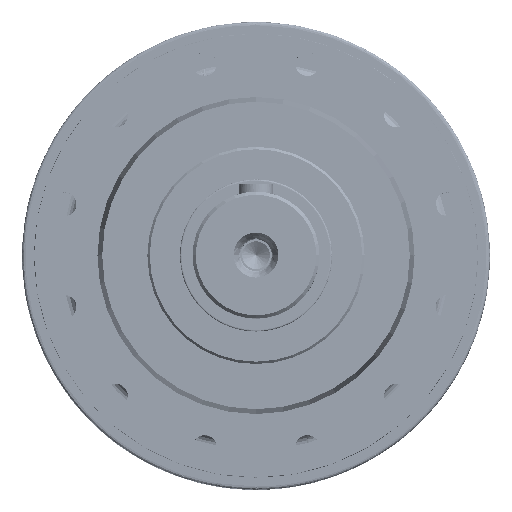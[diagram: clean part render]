
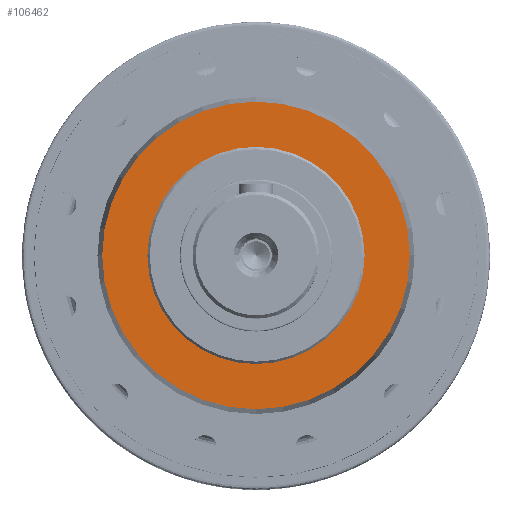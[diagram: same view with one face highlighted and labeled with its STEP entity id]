
A CAD part, top view. The second image highlights one B-rep face of the part: STEP entity #106462.
In plain terms, the highlighted planar face has unit normal (0, 0, 1).
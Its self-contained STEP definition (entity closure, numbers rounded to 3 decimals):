
#5864 = CIRCLE ( 'NONE', #146075, 97. ) ;
#5903 = CIRCLE ( 'NONE', #146158, 68.5 ) ;
#6062 = CIRCLE ( 'NONE', #146123, 68.5 ) ;
#17677 = EDGE_CURVE ( 'NONE', #106305, #106455, #5864, .T. ) ;
#17684 = EDGE_CURVE ( 'NONE', #107079, #106718, #5903, .T. ) ;
#17711 = EDGE_CURVE ( 'NONE', #106718, #107079, #6062, .T. ) ;
#18902 = EDGE_CURVE ( 'NONE', #106455, #106305, #26458, .T. ) ;
#26458 = CIRCLE ( 'NONE', #147446, 97. ) ;
#41227 = AXIS2_PLACEMENT_3D ( 'NONE', #235694, #235714, #235734 ) ;
#72767 = CARTESIAN_POINT ( 'NONE',  ( 0., 0., 147. ) ) ;
#72809 = DIRECTION ( 'NONE',  ( 0., 0., -1. ) ) ;
#72864 = DIRECTION ( 'NONE',  ( 0., 1., 0. ) ) ;
#97167 = DIRECTION ( 'NONE',  ( 0., 0., 1. ) ) ;
#97257 = CARTESIAN_POINT ( 'NONE',  ( 0., 0., 147. ) ) ;
#97282 = DIRECTION ( 'NONE',  ( -1., 0., 0. ) ) ;
#99166 = DIRECTION ( 'NONE',  ( 0., 0., -1. ) ) ;
#99197 = CARTESIAN_POINT ( 'NONE',  ( 0., 0., 147. ) ) ;
#99202 = DIRECTION ( 'NONE',  ( 0., 1., 0. ) ) ;
#99251 = CARTESIAN_POINT ( 'NONE',  ( 0., 0., 147. ) ) ;
#99254 = DIRECTION ( 'NONE',  ( 0., 0., 1. ) ) ;
#99258 = DIRECTION ( 'NONE',  ( -1., 0., 0. ) ) ;
#101124 = FACE_OUTER_BOUND ( 'NONE', #111360, .T. ) ;
#101161 = FACE_BOUND ( 'NONE', #111464, .T. ) ;
#106305 = VERTEX_POINT ( 'NONE', #235358 ) ;
#106455 = VERTEX_POINT ( 'NONE', #235732 ) ;
#106462 = ADVANCED_FACE ( 'NONE', ( #101161, #101124 ), #235683, .F. ) ;
#106718 = VERTEX_POINT ( 'NONE', #236221 ) ;
#107079 = VERTEX_POINT ( 'NONE', #207156 ) ;
#111360 = EDGE_LOOP ( 'NONE', ( #254023, #253977 ) ) ;
#111464 = EDGE_LOOP ( 'NONE', ( #253988, #253973 ) ) ;
#146075 = AXIS2_PLACEMENT_3D ( 'NONE', #99197, #99166, #99202 ) ;
#146123 = AXIS2_PLACEMENT_3D ( 'NONE', #97257, #97167, #97282 ) ;
#146158 = AXIS2_PLACEMENT_3D ( 'NONE', #99251, #99254, #99258 ) ;
#147446 = AXIS2_PLACEMENT_3D ( 'NONE', #72767, #72809, #72864 ) ;
#207156 = CARTESIAN_POINT ( 'NONE',  ( -68.5, 0., 147. ) ) ;
#235358 = CARTESIAN_POINT ( 'NONE',  ( 0., -97., 147. ) ) ;
#235683 = PLANE ( 'NONE',  #41227 ) ;
#235694 = CARTESIAN_POINT ( 'NONE',  ( 0., 97., 147. ) ) ;
#235714 = DIRECTION ( 'NONE',  ( 0., 0., -1. ) ) ;
#235732 = CARTESIAN_POINT ( 'NONE',  ( 0., 97., 147. ) ) ;
#235734 = DIRECTION ( 'NONE',  ( 0., 1., 0. ) ) ;
#236221 = CARTESIAN_POINT ( 'NONE',  ( 68.5, 0., 147. ) ) ;
#253973 = ORIENTED_EDGE ( 'NONE', *, *, #17711, .F. ) ;
#253977 = ORIENTED_EDGE ( 'NONE', *, *, #17677, .F. ) ;
#253988 = ORIENTED_EDGE ( 'NONE', *, *, #17684, .F. ) ;
#254023 = ORIENTED_EDGE ( 'NONE', *, *, #18902, .F. ) ;
